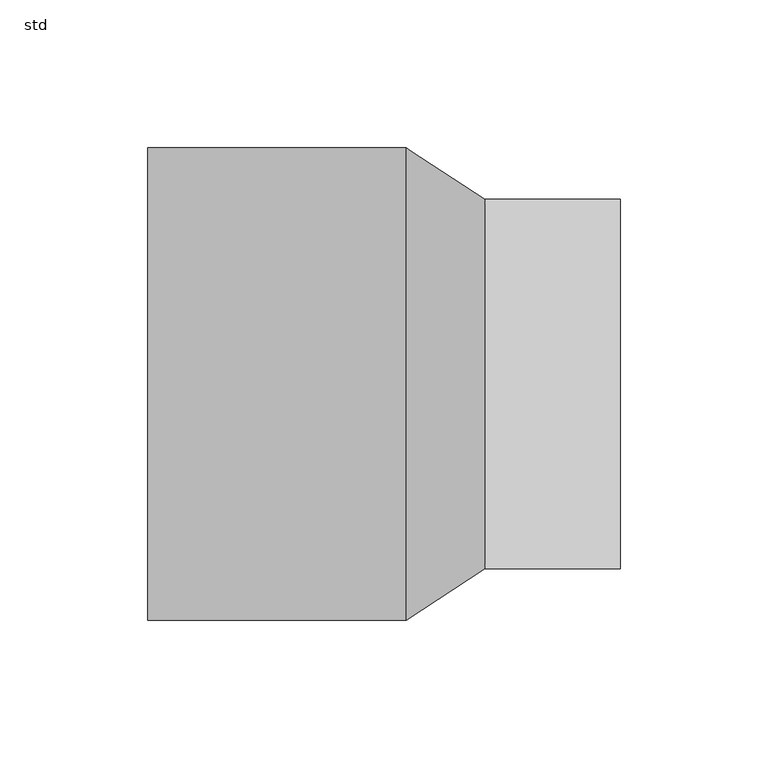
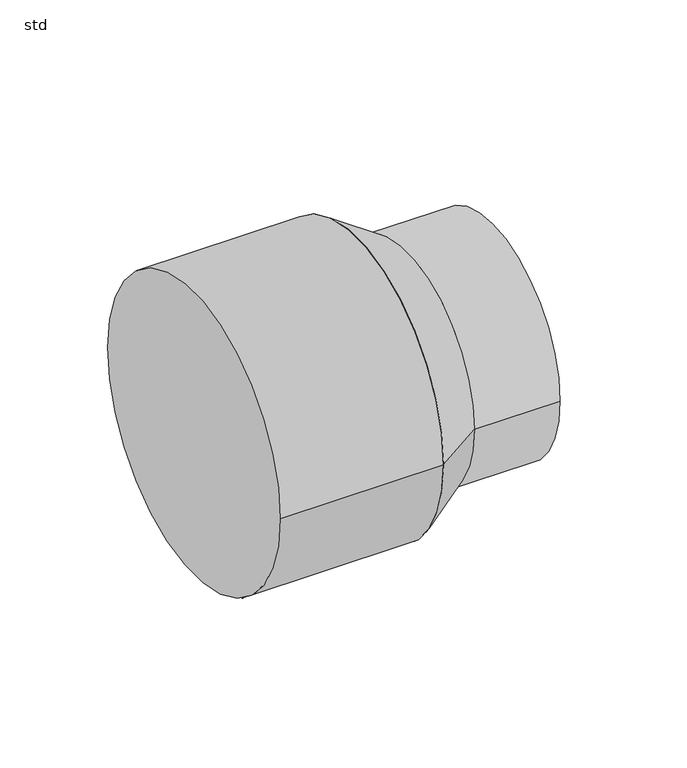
"""IFC4 building model written with IfcOpenShell, lengths in millimetres: pipe fitting geometry, ZZZ_do not use_PIF_ST_UN_ACO pipe increaser coupling_ACO : std."""

from ifc_helpers import new_model, si_unit, point, frame, origin, origin_2d, place, context, project, spatial, polyline, circle_curve, trimmed, segment, composite_curve, outline, extrude, source, transform, mapped, element, save
from ifc_brep_helpers import plane_surface, revolved_surface, advanced_brep


def std_74d0a7f9(model_context):
    return source(origin(), model_context, "Body", "SolidModel", [
        advanced_brep(
        [(34.1666667, -62.5, 0.0), (34.1666667, 62.5, 0.0), (7.5, -80.0, 0.0), (7.5, 80.0, 0.0)],
        [
            (0, 1, circle_curve(frame((34.1666667, 0.0, 0.0), z_axis=(1.0, 2.8120705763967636e-12, 1.9196569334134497e-12), x_axis=(2.8121002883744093e-12, -1.0, 0.0)), 62.5)),
            (1, 0, circle_curve(frame((34.1666667, 0.0, 0.0), z_axis=(1.0, 2.8120705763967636e-12, 1.9196569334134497e-12), x_axis=(-2.8121002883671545e-12, 1.0, 0.0)), 62.5)),
            (2, 3, circle_curve(frame((7.5, 0.0, 0.0), z_axis=(-1.0, -2.8120705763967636e-12, -1.9196569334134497e-12), x_axis=(-2.8121002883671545e-12, 1.0, 0.0)), 80.0)),
            (3, 2, circle_curve(frame((7.5, 0.0, 0.0), z_axis=(-1.0, -2.8120705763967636e-12, -1.9196569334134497e-12), x_axis=(2.8121002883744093e-12, -1.0, 0.0)), 80.0)),
            (3, 1),
            (0, 2),
        ],
        [
            plane_surface(frame((34.1666667, 0.0, 0.0), z_axis=(1.0, 0.0, 0.0), x_axis=(0.0, 0.0, -1.0))),
            plane_surface(frame((7.5, 0.0, 0.0), z_axis=(-1.0, 0.0, 0.0), x_axis=(0.0, 0.0, -1.0))),
            revolved_surface(polyline([(34.16666670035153, -62.49999997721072, 0.0), (7.5, -80.0, 0.0)]), (129.4047619, 0.0, 0.0), (-1.0, -2.8120705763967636e-12, -1.9196569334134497e-12)),
            revolved_surface(polyline([(34.16666670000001, 62.499999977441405, 0.0), (7.499999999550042, 80.00000000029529, 0.0)]), (129.4047619, 0.0, 0.0), (-1.0, -2.8120705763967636e-12, -1.9196569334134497e-12)),
        ],
        [
            (0, [[1, 2]]),
            (1, [[3, 4]]),
            (2, [[-4, 5, -1, 6]]),
            (3, [[-3, -6, -2, -5]]),
        ],
    ),
        extrude(outline(composite_curve([segment(trimmed(circle_curve(origin_2d(), 62.5), [point((62.5, 0.0))], [point((-62.5, 0.0))], False, "CARTESIAN"), True, "CONTINUOUS"), segment(trimmed(circle_curve(origin_2d(), 62.5), [point((-62.5, 0.0))], [point((62.5, 0.0))], False, "CARTESIAN"), True, "CONTINUOUS")], self_intersect=False)), frame((34.1666667, 0.0, 0.0), z_axis=(1.0, 0.0, 0.0), x_axis=(0.0, 1.0, 0.0)), (0.0, 0.0, 1.0), 45.8333333),
        extrude(outline(composite_curve([segment(trimmed(circle_curve(origin_2d(), 80.0), [point((-80.0, 0.0))], [point((80.0, 0.0))], False, "CARTESIAN"), True, "CONTINUOUS"), segment(trimmed(circle_curve(origin_2d(), 80.0), [point((80.0, 0.0))], [point((-80.0, 0.0))], False, "CARTESIAN"), True, "CONTINUOUS")], self_intersect=False)), frame((-80.0, 0.0, 0.0), z_axis=(1.0, 0.0, 0.0), x_axis=(0.0, 1.0, 0.0)), (0.0, 0.0, 1.0), 87.5),
    ])


if __name__ == "__main__":
    model = new_model("IFC4")
    model_context = context("Model", 3, world=origin())
    ifc_project = project(units=[si_unit("LENGTHUNIT", "METRE", prefix="MILLI")], contexts=[model_context])
    site = spatial("IfcSite", under=ifc_project)
    building = spatial("IfcBuilding", under=site)
    placement = place(None, origin())
    std_shape = std_74d0a7f9(model_context)
    element("IfcPipeFitting", 1, ObjectType="ZZZ_do not use_PIF_ST_UN_ACO pipe increaser coupling_ACO : std", at=placement, inside=building, context=model_context, shape_type="MappedRepresentation", body=[
        mapped(std_shape, transform((0.0, 0.0, 0.0), x_axis=(1.0, 0.0, 0.0), y_axis=(0.0, 1.0, 0.0), z_axis=(0.0, 0.0, 1.0))),
    ])
    save(model, "model.ifc")
